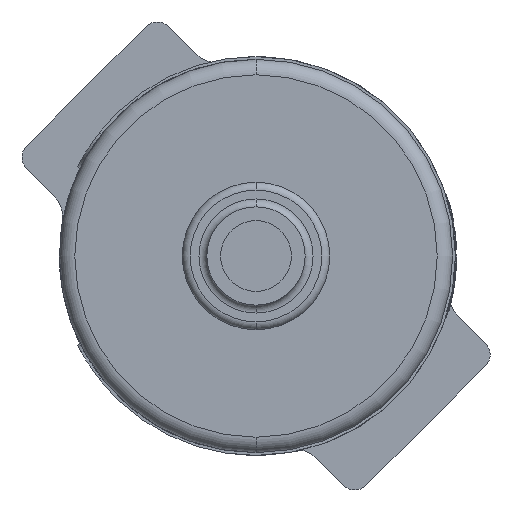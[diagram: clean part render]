
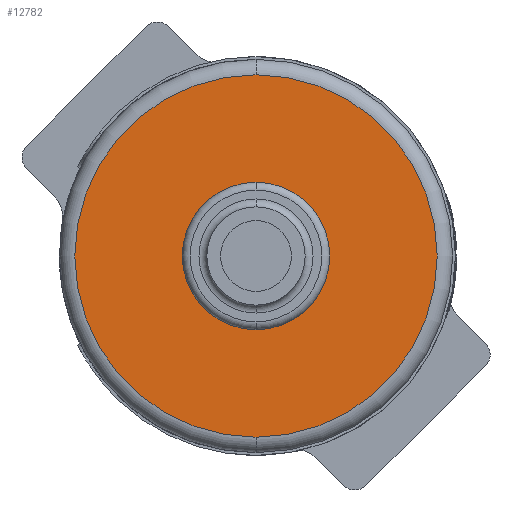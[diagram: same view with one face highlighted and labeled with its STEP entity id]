
A CAD part, front view. The second image highlights one B-rep face of the part: STEP entity #12782.
In plain terms, the highlighted planar face has unit normal (0, -1, 0).
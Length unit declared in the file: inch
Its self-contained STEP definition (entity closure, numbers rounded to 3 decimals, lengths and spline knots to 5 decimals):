
#493 = CARTESIAN_POINT ( 'NONE',  ( 0., 0.15748, 0. ) ) ;
#642 = DIRECTION ( 'NONE',  ( 0., -1., 0. ) ) ;
#703 = AXIS2_PLACEMENT_3D ( 'NONE', #764, #642, #8647 ) ;
#764 = CARTESIAN_POINT ( 'NONE',  ( 0., 0.15748, 0. ) ) ;
#1371 = VERTEX_POINT ( 'NONE', #5023 ) ;
#2034 = CIRCLE ( 'NONE', #6476, 0.46063 ) ;
#2413 = CIRCLE ( 'NONE', #11302, 0.1875 ) ;
#2787 = VERTEX_POINT ( 'NONE', #20325 ) ;
#3774 = EDGE_CURVE ( 'NONE', #1371, #2787, #8534, .T. ) ;
#4142 = AXIS2_PLACEMENT_3D ( 'NONE', #9560, #7971, #14486 ) ;
#4426 = VERTEX_POINT ( 'NONE', #11097 ) ;
#4959 = EDGE_CURVE ( 'NONE', #2787, #1371, #2413, .T. ) ;
#5023 = CARTESIAN_POINT ( 'NONE',  ( 0., 0.15748, 0.1875 ) ) ;
#6476 = AXIS2_PLACEMENT_3D ( 'NONE', #20175, #10124, #15158 ) ;
#6987 = DIRECTION ( 'NONE',  ( 0., 0., -1. ) ) ;
#7061 = CARTESIAN_POINT ( 'NONE',  ( 0., 0.15748, 0. ) ) ;
#7756 = VERTEX_POINT ( 'NONE', #18664 ) ;
#7971 = DIRECTION ( 'NONE',  ( 0., -1., 0. ) ) ;
#8534 = CIRCLE ( 'NONE', #703, 0.1875 ) ;
#8647 = DIRECTION ( 'NONE',  ( 0., 0., -1. ) ) ;
#9560 = CARTESIAN_POINT ( 'NONE',  ( 0., 0.15748, 0. ) ) ;
#10124 = DIRECTION ( 'NONE',  ( 0., -1., 0. ) ) ;
#10225 = CIRCLE ( 'NONE', #11633, 0.46063 ) ;
#10356 = EDGE_LOOP ( 'NONE', ( #17249, #20025 ) ) ;
#10856 = EDGE_CURVE ( 'NONE', #7756, #4426, #2034, .T. ) ;
#10907 = ORIENTED_EDGE ( 'NONE', *, *, #11751, .T. ) ;
#11097 = CARTESIAN_POINT ( 'NONE',  ( 0., 0.15748, -0.46063 ) ) ;
#11179 = FACE_BOUND ( 'NONE', #10356, .T. ) ;
#11302 = AXIS2_PLACEMENT_3D ( 'NONE', #7061, #16564, #16668 ) ;
#11633 = AXIS2_PLACEMENT_3D ( 'NONE', #493, #16817, #6987 ) ;
#11679 = ORIENTED_EDGE ( 'NONE', *, *, #10856, .T. ) ;
#11751 = EDGE_CURVE ( 'NONE', #4426, #7756, #10225, .T. ) ;
#12782 = ADVANCED_FACE ( 'NONE', ( #12788, #11179 ), #17686, .T. ) ;
#12788 = FACE_OUTER_BOUND ( 'NONE', #20097, .T. ) ;
#14486 = DIRECTION ( 'NONE',  ( 0., 0., -1. ) ) ;
#15158 = DIRECTION ( 'NONE',  ( 0., 0., -1. ) ) ;
#16564 = DIRECTION ( 'NONE',  ( 0., -1., 0. ) ) ;
#16668 = DIRECTION ( 'NONE',  ( 0., 0., -1. ) ) ;
#16817 = DIRECTION ( 'NONE',  ( 0., -1., 0. ) ) ;
#17249 = ORIENTED_EDGE ( 'NONE', *, *, #4959, .F. ) ;
#17686 = PLANE ( 'NONE',  #4142 ) ;
#18664 = CARTESIAN_POINT ( 'NONE',  ( 0., 0.15748, 0.46063 ) ) ;
#20025 = ORIENTED_EDGE ( 'NONE', *, *, #3774, .F. ) ;
#20097 = EDGE_LOOP ( 'NONE', ( #10907, #11679 ) ) ;
#20175 = CARTESIAN_POINT ( 'NONE',  ( 0., 0.15748, 0. ) ) ;
#20325 = CARTESIAN_POINT ( 'NONE',  ( 0., 0.15748, -0.1875 ) ) ;
